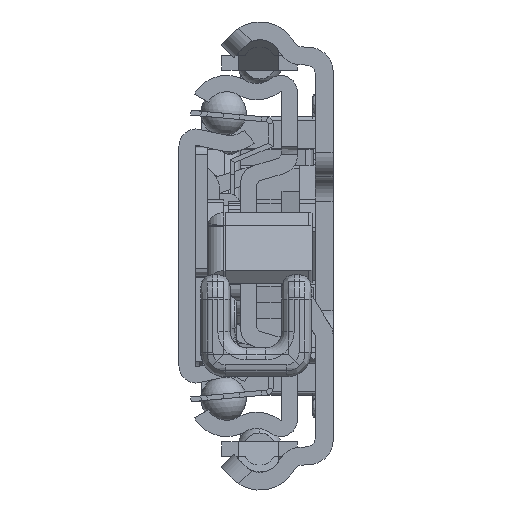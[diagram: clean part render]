
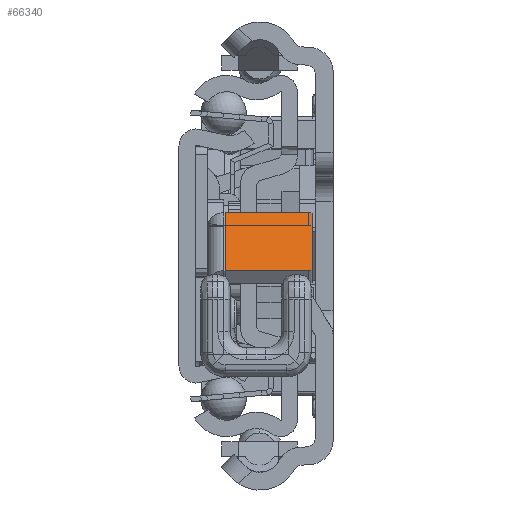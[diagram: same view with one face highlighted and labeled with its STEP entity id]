
A CAD part, left-side view. The second image highlights one B-rep face of the part: STEP entity #66340.
In plain terms, the highlighted planar face has unit normal (-0.597, 0, 0.802) as drawn and (-0.597, -0.802, 0) by its records, which use the part's own axes.
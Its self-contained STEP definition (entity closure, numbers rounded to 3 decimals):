
#65728=DIRECTION('',(0.802,-0.597,0.));
#65729=VECTOR('',#65728,12.);
#65730=CARTESIAN_POINT('',(31.957,-10.314,-0.2));
#65731=LINE('',#65730,#65729);
#65756=DIRECTION('',(0.,0.,1.));
#65757=VECTOR('',#65756,10.3);
#65758=CARTESIAN_POINT('',(41.586,-17.476,-10.5));
#65759=LINE('',#65758,#65757);
#65760=CARTESIAN_POINT('',(41.184,-17.178,-10.5));
#65761=DIRECTION('',(-0.597,-0.802,0.));
#65762=DIRECTION('',(0.,0.,-1.));
#65763=AXIS2_PLACEMENT_3D('',#65760,#65761,#65762);
#65765=DIRECTION('',(0.802,-0.597,0.));
#65766=VECTOR('',#65765,11.);
#65767=CARTESIAN_POINT('',(32.358,-10.613,-11.));
#65768=LINE('',#65767,#65766);
#65769=CARTESIAN_POINT('',(32.358,-10.613,-10.5));
#65770=DIRECTION('',(-0.597,-0.802,0.));
#65771=DIRECTION('',(-0.802,0.597,0.));
#65772=AXIS2_PLACEMENT_3D('',#65769,#65770,#65771);
#65774=DIRECTION('',(0.,0.,-1.));
#65775=VECTOR('',#65774,10.3);
#65776=CARTESIAN_POINT('',(31.957,-10.314,-0.2));
#65777=LINE('',#65776,#65775);
#65994=CARTESIAN_POINT('',(31.957,-10.314,-0.2));
#65995=CARTESIAN_POINT('',(41.586,-17.476,-0.2));
#65996=VERTEX_POINT('',#65994);
#65997=VERTEX_POINT('',#65995);
#66026=CARTESIAN_POINT('',(41.586,-17.476,-10.5));
#66027=VERTEX_POINT('',#66026);
#66028=CARTESIAN_POINT('',(32.358,-10.613,-11.));
#66029=CARTESIAN_POINT('',(41.184,-17.178,-11.));
#66030=VERTEX_POINT('',#66028);
#66031=VERTEX_POINT('',#66029);
#66032=CARTESIAN_POINT('',(31.957,-10.314,-10.5));
#66033=VERTEX_POINT('',#66032);
#66322=CARTESIAN_POINT('',(34.726,-12.374,2.));
#66323=DIRECTION('',(0.597,0.802,0.));
#66324=DIRECTION('',(0.802,-0.597,0.));
#66325=AXIS2_PLACEMENT_3D('',#66322,#66323,#66324);
#66326=PLANE('',#66325);
#66328=ORIENTED_EDGE('',*,*,#66327,.F.);
#66330=ORIENTED_EDGE('',*,*,#66329,.F.);
#66332=ORIENTED_EDGE('',*,*,#66331,.F.);
#66334=ORIENTED_EDGE('',*,*,#66333,.F.);
#66336=ORIENTED_EDGE('',*,*,#66335,.F.);
#66337=ORIENTED_EDGE('',*,*,#66309,.T.);
#66338=EDGE_LOOP('',(#66328,#66330,#66332,#66334,#66336,#66337));
#66339=FACE_OUTER_BOUND('',#66338,.F.);
#65764=CIRCLE('',#65763,0.5);
#65773=CIRCLE('',#65772,0.5);
#66309=EDGE_CURVE('',#65996,#65997,#65731,.T.);
#66327=EDGE_CURVE('',#66027,#65997,#65759,.T.);
#66329=EDGE_CURVE('',#66031,#66027,#65764,.T.);
#66331=EDGE_CURVE('',#66030,#66031,#65768,.T.);
#66333=EDGE_CURVE('',#66033,#66030,#65773,.T.);
#66335=EDGE_CURVE('',#65996,#66033,#65777,.T.);
#66340=ADVANCED_FACE('',(#66339),#66326,.F.);
